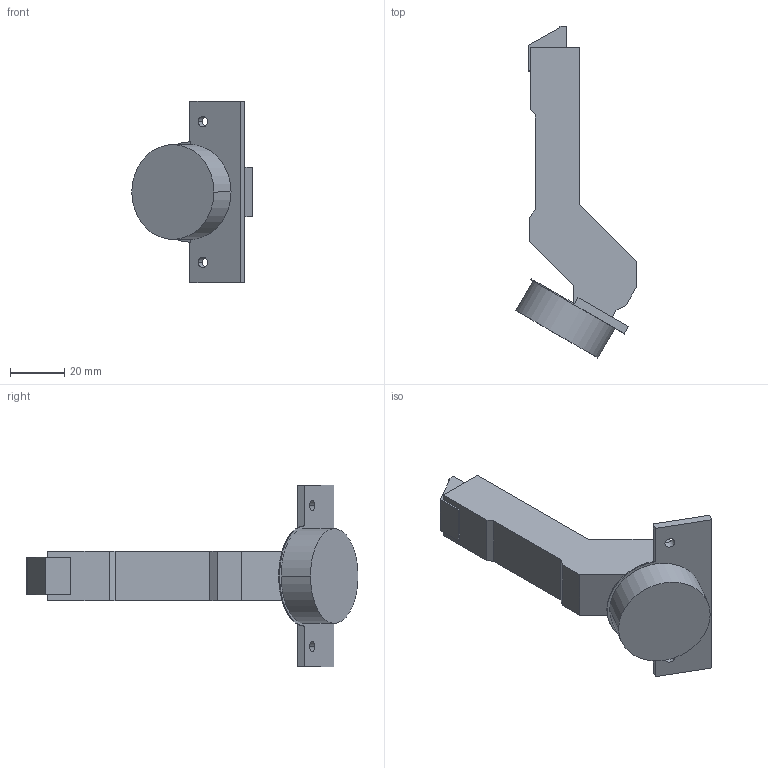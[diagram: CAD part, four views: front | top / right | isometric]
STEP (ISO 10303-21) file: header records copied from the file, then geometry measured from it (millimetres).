
FILE_DESCRIPTION (( 'STEP AP214' ), '1' );
FILE_NAME ('Scharnier TS Click-on 110°_+30° H_BB, einliegend.step', '2010-12-13T10:21:50', ( 'grass' ), ( '' ), 'SwSTEP 2.0', 'SolidWorks 2010', '' );
FILE_SCHEMA (( 'AUTOMOTIVE_DESIGN' ));
Length unit declared in the file: millimetre
Products named in the file (1): Scharnier TS Click-on 110°_+30° H_BB, einliegend
Bounding box: 44.44 x 122.51 x 67 mm (x, y, z)
Volume: 53377.8 mm3; surface area: 14161.1 mm2
Topology: 1 solids, 1 shells, 52 faces, 138 edges, 92 vertices
Faces by surface type: plane 38, cylinder 14
Entity records: 1652 total; most frequent: CARTESIAN_POINT 283, ORIENTED_EDGE 276, DIRECTION 272, EDGE_CURVE 138, LINE 110, VECTOR 110, VERTEX_POINT 92, AXIS2_PLACEMENT_3D 81
